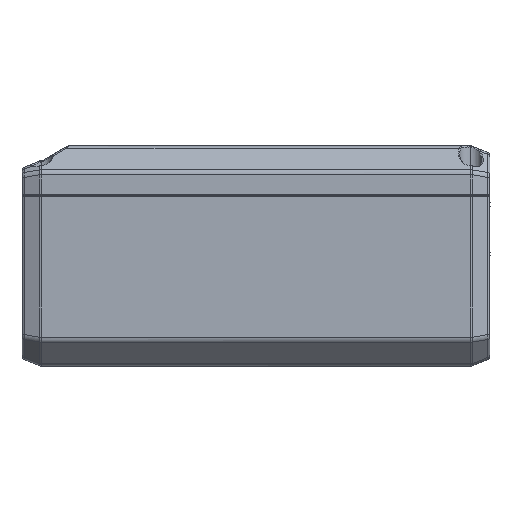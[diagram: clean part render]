
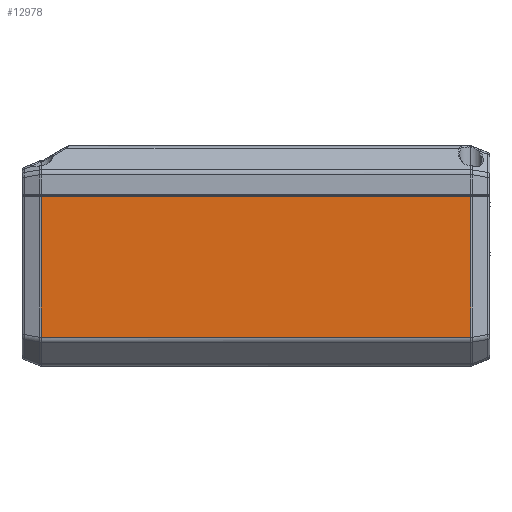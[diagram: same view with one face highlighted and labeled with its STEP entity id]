
A CAD part, left-side view. The second image highlights one B-rep face of the part: STEP entity #12978.
In plain terms, the highlighted planar face has unit normal (-1, 0, 0).
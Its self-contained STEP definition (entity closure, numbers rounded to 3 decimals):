
#3419=DIRECTION('',(0.,1.,0.));
#3420=VECTOR('',#3419,116.115);
#3421=CARTESIAN_POINT('',(-67.25,-58.057,
-13.7));
#3422=LINE('',#3421,#3420);
#3423=DIRECTION('',(0.,0.,1.));
#3424=VECTOR('',#3423,37.972);
#3425=CARTESIAN_POINT('',(-67.25,-58.057,
-51.672));
#3426=LINE('',#3425,#3424);
#3427=DIRECTION('',(0.,-1.,0.));
#3428=VECTOR('',#3427,116.115);
#3429=CARTESIAN_POINT('',(-67.25,58.057,
-51.672));
#3430=LINE('',#3429,#3428);
#3431=DIRECTION('',(0.,0.,-1.));
#3432=VECTOR('',#3431,37.972);
#3433=CARTESIAN_POINT('',(-67.25,58.057,
-13.7));
#3434=LINE('',#3433,#3432);
#3933=CARTESIAN_POINT('',(-67.25,58.057,
-51.672));
#3943=CARTESIAN_POINT('',(-67.25,-58.057,
-51.672));
#6552=VERTEX_POINT('',#3943);
#6554=VERTEX_POINT('',#3933);
#7698=CARTESIAN_POINT('',(-67.25,-58.057,-13.7));
#7699=VERTEX_POINT('',#7698);
#7702=CARTESIAN_POINT('',(-67.25,58.057,
-13.7));
#7703=VERTEX_POINT('',#7702);
#12965=CARTESIAN_POINT('',(-67.25,63.25,0.));
#12966=DIRECTION('',(-1.,0.,0.));
#12967=DIRECTION('',(0.,-1.,0.));
#12968=AXIS2_PLACEMENT_3D('',#12965,#12966,#12967);
#12969=PLANE('',#12968);
#12970=ORIENTED_EDGE('',*,*,#12956,.F.);
#12972=ORIENTED_EDGE('',*,*,#12971,.F.);
#12974=ORIENTED_EDGE('',*,*,#12973,.F.);
#12975=ORIENTED_EDGE('',*,*,#12930,.F.);
#12976=EDGE_LOOP('',(#12970,#12972,#12974,#12975));
#12977=FACE_OUTER_BOUND('',#12976,.F.);
#12930=EDGE_CURVE('',#7703,#6554,#3434,.T.);
#12956=EDGE_CURVE('',#7699,#7703,#3422,.T.);
#12971=EDGE_CURVE('',#6552,#7699,#3426,.T.);
#12973=EDGE_CURVE('',#6554,#6552,#3430,.T.);
#12978=ADVANCED_FACE('',(#12977),#12969,.T.);
